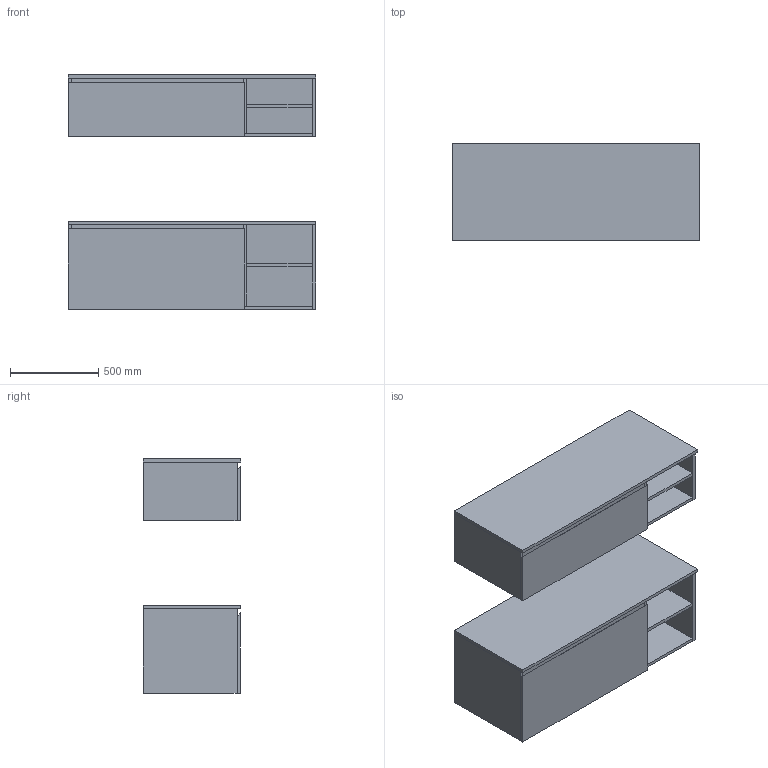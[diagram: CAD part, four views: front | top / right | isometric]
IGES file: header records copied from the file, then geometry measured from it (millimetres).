
Global section: file name: \\Archi-NAS\Comune\X GIOVANNI\MOBILI\EMOTION\EMOTION_11.igs; native system: Rhinoceros ( Feb 23 2021 ); preprocessor: Trout Lake IGES 012 Feb 23 2021; date: 230608.072222; units: millimetre
Bounding box: 1400 x 550 x 1328.74 mm (x, y, z)
Surface area: 16629477.4 mm2 (no closed solid volume)
Topology: 0 solids, 0 shells, 169 faces, 678 edges, 678 vertices
Faces by surface type: bspline 169
